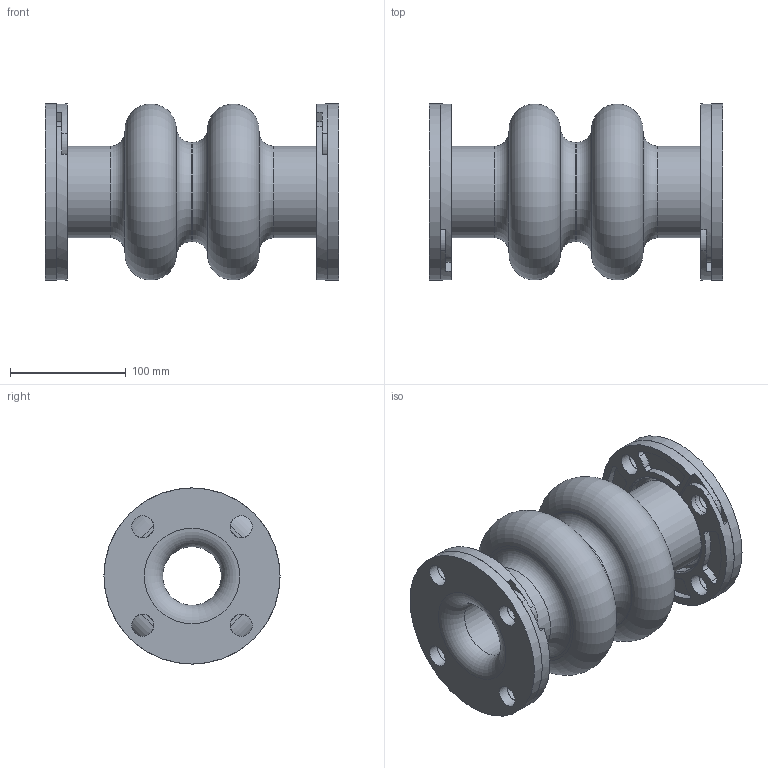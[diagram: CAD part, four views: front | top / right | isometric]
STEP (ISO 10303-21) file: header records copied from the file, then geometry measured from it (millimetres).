
FILE_DESCRIPTION(/* description */ (''),/* implementation_level */ '2;1');
FILE_NAME(/* name */ 'C:\001_Work\Designs\Mercer2014\MQInventor2014\RajR\500 Style\502\STP\502 2IDx10FF.stp',/* time_stamp */ '2016-03-16T13:58:34-04:00',/* author */ ('mquog'),/* organization */ (''),/* preprocessor_version */ 'ST-DEVELOPER v15.2',/* originating_system */ 'Autodesk Inventor 2014',/* authorisation */ '');
FILE_SCHEMA (('AUTOMOTIVE_DESIGN { 1 0 10303 214 3 1 1 }'));
Length unit declared in the file: centimetre
Products named in the file (1): 502 2IDx10FF
Bounding box: 254 x 152.4 x 152.4 mm (x, y, z)
Volume: 1775446.7 mm3; surface area: 328457.8 mm2
Topology: 3 solids, 3 shells, 188 faces, 488 edges, 312 vertices
Faces by surface type: cylinder 108, plane 52, torus 20, cone 8
Full cylindrical faces by diameter (mm): 19.05 x20, 50.8 x3, 79.375 x2, 85.725 x1, 152.4 x2
Entity records: 6000 total; most frequent: CARTESIAN_POINT 1109, DIRECTION 1058, ORIENTED_EDGE 872, AXIS2_PLACEMENT_3D 449, EDGE_CURVE 436, VERTEX_POINT 308, EDGE_LOOP 280, CIRCLE 260
